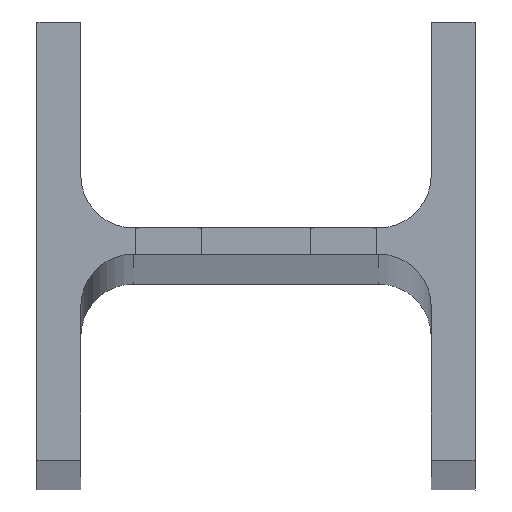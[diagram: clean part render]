
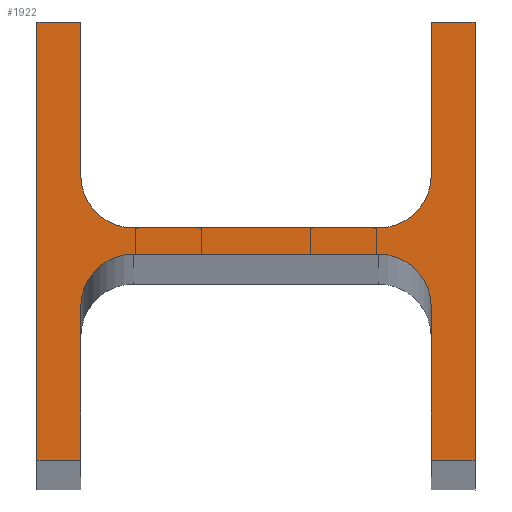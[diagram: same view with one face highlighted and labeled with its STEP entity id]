
A CAD part, top view. The second image highlights one B-rep face of the part: STEP entity #1922.
In plain terms, the highlighted planar face has unit normal (0, 0, 1).
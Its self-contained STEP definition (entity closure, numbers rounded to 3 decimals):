
#39 = CARTESIAN_POINT ( 'NONE',  ( -40., 50., 3920. ) ) ;
#87 = EDGE_CURVE ( 'NONE', #2017, #924, #2608, .T. ) ;
#96 = DIRECTION ( 'NONE',  ( -1., 0., 0. ) ) ;
#126 = ORIENTED_EDGE ( 'NONE', *, *, #3698, .F. ) ;
#163 = LINE ( 'NONE', #1337, #1677 ) ;
#185 = EDGE_CURVE ( 'NONE', #3003, #3475, #694, .T. ) ;
#226 = CARTESIAN_POINT ( 'NONE',  ( -50., -50., 3920. ) ) ;
#228 = CARTESIAN_POINT ( 'NONE',  ( -28., 3., 3920. ) ) ;
#237 = LINE ( 'NONE', #1964, #2896 ) ;
#274 = CARTESIAN_POINT ( 'NONE',  ( -28., -3., 3920. ) ) ;
#313 = CARTESIAN_POINT ( 'NONE',  ( 40., 50., 3920. ) ) ;
#315 = DIRECTION ( 'NONE',  ( 0., -1., 0. ) ) ;
#329 = EDGE_CURVE ( 'NONE', #714, #3003, #1997, .T. ) ;
#407 = ORIENTED_EDGE ( 'NONE', *, *, #1755, .F. ) ;
#410 = DIRECTION ( 'NONE',  ( 0., 0., -1. ) ) ;
#416 = CARTESIAN_POINT ( 'NONE',  ( 28., -15., 3920. ) ) ;
#438 = ORIENTED_EDGE ( 'NONE', *, *, #3189, .F. ) ;
#453 = VECTOR ( 'NONE', #315, 1000. ) ;
#464 = ORIENTED_EDGE ( 'NONE', *, *, #3279, .F. ) ;
#523 = AXIS2_PLACEMENT_3D ( 'NONE', #416, #1035, #1563 ) ;
#548 = CARTESIAN_POINT ( 'NONE',  ( 28., 3., 3920. ) ) ;
#601 = CARTESIAN_POINT ( 'NONE',  ( 40., -15., 3920. ) ) ;
#694 = LINE ( 'NONE', #2072, #2992 ) ;
#706 = PLANE ( 'NONE',  #3191 ) ;
#714 = VERTEX_POINT ( 'NONE', #313 ) ;
#735 = EDGE_CURVE ( 'NONE', #1451, #714, #905, .T. ) ;
#825 = DIRECTION ( 'NONE',  ( 0., 1., 0. ) ) ;
#883 = DIRECTION ( 'NONE',  ( -1., 0., 0. ) ) ;
#905 = LINE ( 'NONE', #1476, #2215 ) ;
#924 = VERTEX_POINT ( 'NONE', #2895 ) ;
#1018 = VERTEX_POINT ( 'NONE', #274 ) ;
#1035 = DIRECTION ( 'NONE',  ( 0., 0., 1. ) ) ;
#1039 = CARTESIAN_POINT ( 'NONE',  ( 28., 15., 3920. ) ) ;
#1087 = CARTESIAN_POINT ( 'NONE',  ( -40., -15., 3920. ) ) ;
#1189 = LINE ( 'NONE', #2907, #3612 ) ;
#1191 = CIRCLE ( 'NONE', #523, 12. ) ;
#1196 = CARTESIAN_POINT ( 'NONE',  ( 40., -50., 3920. ) ) ;
#1206 = DIRECTION ( 'NONE',  ( 0., 0., 1. ) ) ;
#1234 = EDGE_CURVE ( 'NONE', #924, #1301, #3650, .T. ) ;
#1242 = VECTOR ( 'NONE', #2082, 1000. ) ;
#1283 = ORIENTED_EDGE ( 'NONE', *, *, #3417, .F. ) ;
#1301 = VERTEX_POINT ( 'NONE', #2243 ) ;
#1337 = CARTESIAN_POINT ( 'NONE',  ( 50., -50., 3920. ) ) ;
#1343 = CARTESIAN_POINT ( 'NONE',  ( -40., -50., 3920. ) ) ;
#1399 = DIRECTION ( 'NONE',  ( 1., 0., 0. ) ) ;
#1419 = CARTESIAN_POINT ( 'NONE',  ( -28., 15., 3920. ) ) ;
#1450 = EDGE_CURVE ( 'NONE', #3700, #1974, #3570, .T. ) ;
#1451 = VERTEX_POINT ( 'NONE', #2968 ) ;
#1476 = CARTESIAN_POINT ( 'NONE',  ( 40., 15., 3920. ) ) ;
#1534 = ORIENTED_EDGE ( 'NONE', *, *, #1450, .F. ) ;
#1549 = CARTESIAN_POINT ( 'NONE',  ( 28., -3., 3920. ) ) ;
#1559 = CARTESIAN_POINT ( 'NONE',  ( -40., 15., 3920. ) ) ;
#1563 = DIRECTION ( 'NONE',  ( -1., 0., 0. ) ) ;
#1588 = VERTEX_POINT ( 'NONE', #1600 ) ;
#1600 = CARTESIAN_POINT ( 'NONE',  ( -40., 50., 3920. ) ) ;
#1611 = CIRCLE ( 'NONE', #3732, 12. ) ;
#1620 = DIRECTION ( 'NONE',  ( -1., 0., 0. ) ) ;
#1637 = ORIENTED_EDGE ( 'NONE', *, *, #87, .F. ) ;
#1655 = DIRECTION ( 'NONE',  ( -1., 0., 0. ) ) ;
#1677 = VECTOR ( 'NONE', #3586, 1000. ) ;
#1685 = EDGE_CURVE ( 'NONE', #1301, #2321, #2575, .T. ) ;
#1755 = EDGE_CURVE ( 'NONE', #3089, #3374, #3250, .T. ) ;
#1788 = EDGE_LOOP ( 'NONE', ( #1637, #3398, #1283, #126, #407, #3694, #3628, #2635, #1808, #1857, #1534, #438, #2381, #464, #3715, #2122 ) ) ;
#1808 = ORIENTED_EDGE ( 'NONE', *, *, #735, .F. ) ;
#1846 = VECTOR ( 'NONE', #2853, 1000. ) ;
#1857 = ORIENTED_EDGE ( 'NONE', *, *, #3553, .F. ) ;
#1898 = DIRECTION ( 'NONE',  ( 0., 0., 1. ) ) ;
#1922 = ADVANCED_FACE ( 'NONE', ( #2191 ), #706, .F. ) ;
#1923 = VECTOR ( 'NONE', #825, 1000. ) ;
#1964 = CARTESIAN_POINT ( 'NONE',  ( -50., 50., 3920. ) ) ;
#1974 = VERTEX_POINT ( 'NONE', #548 ) ;
#1997 = LINE ( 'NONE', #2264, #2458 ) ;
#2017 = VERTEX_POINT ( 'NONE', #1087 ) ;
#2070 = CARTESIAN_POINT ( 'NONE',  ( -28., -15., 3920. ) ) ;
#2072 = CARTESIAN_POINT ( 'NONE',  ( 50., 50., 3920. ) ) ;
#2082 = DIRECTION ( 'NONE',  ( 1., 0., 0. ) ) ;
#2122 = ORIENTED_EDGE ( 'NONE', *, *, #1234, .F. ) ;
#2171 = AXIS2_PLACEMENT_3D ( 'NONE', #1039, #1898, #96 ) ;
#2191 = FACE_OUTER_BOUND ( 'NONE', #1788, .T. ) ;
#2202 = CARTESIAN_POINT ( 'NONE',  ( 50., -50., 3920. ) ) ;
#2215 = VECTOR ( 'NONE', #3174, 1000. ) ;
#2243 = CARTESIAN_POINT ( 'NONE',  ( -50., -50., 3920. ) ) ;
#2264 = CARTESIAN_POINT ( 'NONE',  ( 40., 50., 3920. ) ) ;
#2282 = DIRECTION ( 'NONE',  ( 1., 0., 0. ) ) ;
#2321 = VERTEX_POINT ( 'NONE', #3773 ) ;
#2351 = CARTESIAN_POINT ( 'NONE',  ( -28., 3., 3920. ) ) ;
#2356 = DIRECTION ( 'NONE',  ( -1., 0., 0. ) ) ;
#2357 = EDGE_CURVE ( 'NONE', #1018, #2017, #1611, .T. ) ;
#2381 = ORIENTED_EDGE ( 'NONE', *, *, #3109, .F. ) ;
#2411 = CIRCLE ( 'NONE', #2534, 12. ) ;
#2458 = VECTOR ( 'NONE', #2282, 1000. ) ;
#2534 = AXIS2_PLACEMENT_3D ( 'NONE', #1419, #3138, #1655 ) ;
#2575 = LINE ( 'NONE', #226, #1923 ) ;
#2608 = LINE ( 'NONE', #3437, #1846 ) ;
#2635 = ORIENTED_EDGE ( 'NONE', *, *, #329, .F. ) ;
#2728 = VERTEX_POINT ( 'NONE', #1559 ) ;
#2803 = EDGE_CURVE ( 'NONE', #3475, #3089, #163, .T. ) ;
#2853 = DIRECTION ( 'NONE',  ( 0., -1., 0. ) ) ;
#2895 = CARTESIAN_POINT ( 'NONE',  ( -40., -50., 3920. ) ) ;
#2896 = VECTOR ( 'NONE', #1399, 1000. ) ;
#2907 = CARTESIAN_POINT ( 'NONE',  ( 28., -3., 3920. ) ) ;
#2940 = DIRECTION ( 'NONE',  ( 0., -1., 0. ) ) ;
#2968 = CARTESIAN_POINT ( 'NONE',  ( 40., 15., 3920. ) ) ;
#2992 = VECTOR ( 'NONE', #2940, 1000. ) ;
#3003 = VERTEX_POINT ( 'NONE', #3419 ) ;
#3089 = VERTEX_POINT ( 'NONE', #1196 ) ;
#3109 = EDGE_CURVE ( 'NONE', #1588, #2728, #3489, .T. ) ;
#3138 = DIRECTION ( 'NONE',  ( 0., 0., 1. ) ) ;
#3174 = DIRECTION ( 'NONE',  ( 0., 1., 0. ) ) ;
#3189 = EDGE_CURVE ( 'NONE', #2728, #3700, #2411, .T. ) ;
#3191 = AXIS2_PLACEMENT_3D ( 'NONE', #3361, #410, #1620 ) ;
#3200 = DIRECTION ( 'NONE',  ( 0., 1., 0. ) ) ;
#3249 = VECTOR ( 'NONE', #3200, 1000. ) ;
#3250 = LINE ( 'NONE', #3567, #3249 ) ;
#3279 = EDGE_CURVE ( 'NONE', #2321, #1588, #237, .T. ) ;
#3361 = CARTESIAN_POINT ( 'NONE',  ( -41., 35., 3920. ) ) ;
#3374 = VERTEX_POINT ( 'NONE', #601 ) ;
#3398 = ORIENTED_EDGE ( 'NONE', *, *, #2357, .F. ) ;
#3417 = EDGE_CURVE ( 'NONE', #3501, #1018, #1189, .T. ) ;
#3419 = CARTESIAN_POINT ( 'NONE',  ( 50., 50., 3920. ) ) ;
#3437 = CARTESIAN_POINT ( 'NONE',  ( -40., -15., 3920. ) ) ;
#3475 = VERTEX_POINT ( 'NONE', #2202 ) ;
#3482 = VECTOR ( 'NONE', #3613, 1000. ) ;
#3489 = LINE ( 'NONE', #39, #453 ) ;
#3492 = CIRCLE ( 'NONE', #2171, 12. ) ;
#3501 = VERTEX_POINT ( 'NONE', #1549 ) ;
#3553 = EDGE_CURVE ( 'NONE', #1974, #1451, #3492, .T. ) ;
#3567 = CARTESIAN_POINT ( 'NONE',  ( 40., -50., 3920. ) ) ;
#3570 = LINE ( 'NONE', #2351, #1242 ) ;
#3586 = DIRECTION ( 'NONE',  ( -1., 0., 0. ) ) ;
#3612 = VECTOR ( 'NONE', #2356, 1000. ) ;
#3613 = DIRECTION ( 'NONE',  ( -1., 0., 0. ) ) ;
#3628 = ORIENTED_EDGE ( 'NONE', *, *, #185, .F. ) ;
#3650 = LINE ( 'NONE', #1343, #3482 ) ;
#3694 = ORIENTED_EDGE ( 'NONE', *, *, #2803, .F. ) ;
#3698 = EDGE_CURVE ( 'NONE', #3374, #3501, #1191, .T. ) ;
#3700 = VERTEX_POINT ( 'NONE', #228 ) ;
#3715 = ORIENTED_EDGE ( 'NONE', *, *, #1685, .F. ) ;
#3732 = AXIS2_PLACEMENT_3D ( 'NONE', #2070, #1206, #883 ) ;
#3773 = CARTESIAN_POINT ( 'NONE',  ( -50., 50., 3920. ) ) ;
